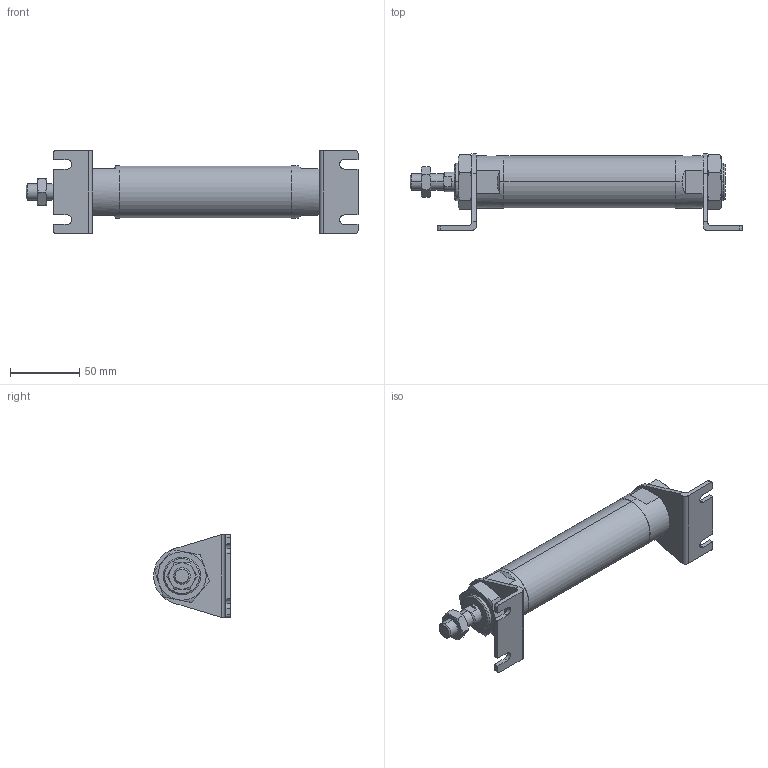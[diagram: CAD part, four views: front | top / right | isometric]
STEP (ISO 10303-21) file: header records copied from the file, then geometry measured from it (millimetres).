
FILE_DESCRIPTION (( 'STEP AP203' ), '1' );
FILE_NAME ('J#2-32-75-L.STEP', '2016-03-10T00:58:37', ( '' ), ( '' ), 'SwSTEP 2.0', 'SolidWorks 2014', '' );
FILE_SCHEMA (( 'CONFIG_CONTROL_DESIGN' ));
Length unit declared in the file: millimetre
Products named in the file (5): J#2-32-L; J#2-32-75; J#2-32-75-L
Assembly tree (6 placements, depth 2):
  J#2-32-75-L
    J#2-32-75
    (unnamed)
    (unnamed)  x2
    J#2-32-L  x2
Bounding box: 240.2 x 55.5 x 60 mm (x, y, z)
Volume: 234755.8 mm3; surface area: 49148.2 mm2
Topology: 6 solids, 6 shells, 170 faces, 404 edges, 249 vertices
Faces by surface type: plane 71, cylinder 48, torus 36, cone 15
Entity records: 4479 total; most frequent: CARTESIAN_POINT 1189, DIRECTION 578, ORIENTED_EDGE 558, EDGE_CURVE 279, AXIS2_PLACEMENT_3D 232, VERTEX_POINT 173, EDGE_LOOP 134, ADVANCED_FACE 121
